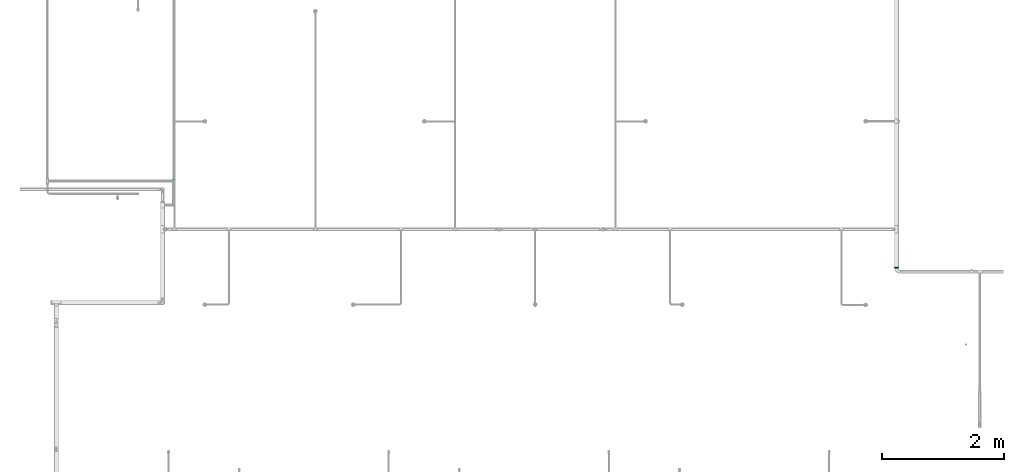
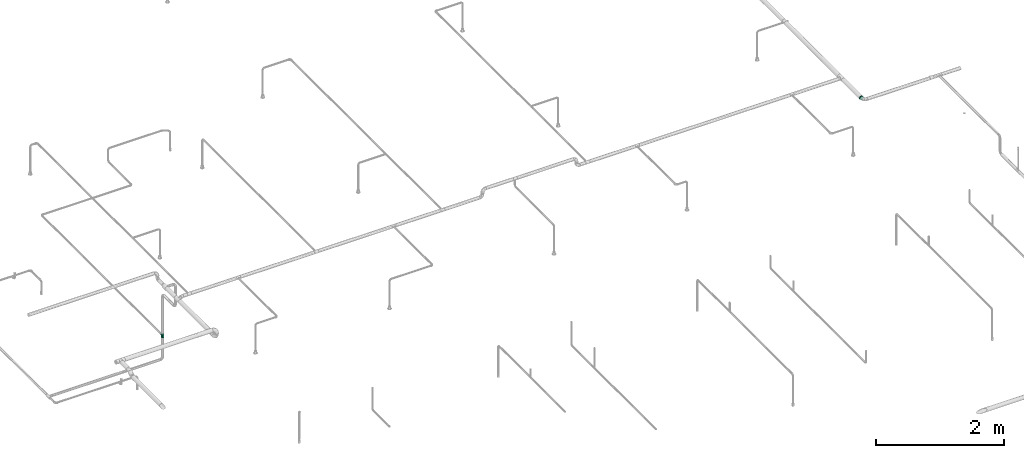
# One storey, part 87 of 95: 2 flow fittings.
"""IFC2X3 building model written with IfcOpenShell, lengths in millimetres."""

from ifc_helpers import new_model, entity, si_unit, converted_unit, derived_unit, direction, frame, origin_with_axes, place, context, subcontext, project, spatial, open_shell, surface_model, source, transform, mapped, type_object, element, save


model = new_model("IFC2X3")

# Units and contexts
model_context = context("Model", 3, precision=0.01, world=frame((0.0, 4.29681676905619e-09, 0.0)), true_north=direction((4.01073788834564e-13, 1.0)))
plan_context = context("Plan", 3, precision=0.01, world=frame((0.0, 4.29681676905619e-09, 0.0)), true_north=direction((4.01073788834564e-13, 1.0)))
body_context = subcontext(model_context, "Body", "Model", "MODEL_VIEW")
ifc_project = project(units=[converted_unit("PLANEANGLEUNIT", "DEGREE", entity("IfcPositiveLengthMeasure", 0.0174532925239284), si_unit("PLANEANGLEUNIT", "RADIAN"), dimensions=[0, 0, 0, 0, 0, 0, 0]), si_unit("AREAUNIT", "SQUARE_METRE"), si_unit("LENGTHUNIT", "METRE", prefix="MILLI"), si_unit("MASSUNIT", "GRAM", prefix="KILO"), si_unit("POWERUNIT", "WATT"), si_unit("PRESSUREUNIT", "PASCAL"), si_unit("FORCEUNIT", "NEWTON", prefix="KILO"), si_unit("ELECTRICVOLTAGEUNIT", "VOLT"), si_unit("ELECTRICCURRENTUNIT", "AMPERE"), si_unit("THERMODYNAMICTEMPERATUREUNIT", "DEGREE_CELSIUS"), si_unit("TIMEUNIT", "SECOND"), si_unit("VOLUMEUNIT", "CUBIC_METRE"), derived_unit("LINEARVELOCITYUNIT", [(si_unit("LENGTHUNIT", "METRE"), 1), (si_unit("TIMEUNIT", "SECOND"), -1)]), derived_unit("VOLUMETRICFLOWRATEUNIT", [(si_unit("VOLUMEUNIT", "CUBIC_METRE"), 1), (si_unit("TIMEUNIT", "SECOND"), -1)]), derived_unit("THERMALTRANSMITTANCEUNIT", [(si_unit("POWERUNIT", "WATT"), 1), (si_unit("THERMODYNAMICTEMPERATUREUNIT", "KELVIN"), -1), (si_unit("AREAUNIT", "SQUARE_METRE"), -1)]), derived_unit("SOUNDPRESSUREUNIT", [(si_unit("PRESSUREUNIT", "PASCAL"), 1)])], contexts=[model_context, plan_context])

# Site, building, storey
site_placement = place(None, frame((0.0, -4.29681676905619e-09, 0.0), z_axis=(0.0, 0.0, 1.0), x_axis=(1.0, 0.0, 0.0)))
site = spatial("IfcSite", under=ifc_project, at=site_placement, CompositionType="ELEMENT")
building_placement = place(site_placement, frame((0.0, 4.29681676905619e-09, 0.0), z_axis=(0.0, 0.0, 1.0), x_axis=(1.0, 0.0, 0.0)))
building = spatial("IfcBuilding", under=site, at=building_placement, Name="mc-building", CompositionType="ELEMENT")
storey_placement = place(building_placement, frame((0.0, 0.0, 210900.0), z_axis=(0.0, 0.0, 1.0), x_axis=(1.0, 0.0, 0.0)))
storey = spatial("IfcBuildingStorey", under=building, at=storey_placement, Name="Nivå F", CompositionType="ELEMENT", Elevation=210900.0)

# Flow fittings
pipe_fitting_type_1 = type_object("IfcPipeFittingType", Name="magi_pipe_fe_reducer_centric_short_NOR", PredefinedType="TRANSITION")
shared_shape_1 = source(origin_with_axes(), body_context, "Body", "SurfaceModel", [
    surface_model("IfcShellBasedSurfaceModel", [(17.8, 9.86101, -36.80177), (17.8, 19.05, -32.99557), (17.8, 26.94077, -26.94077), (17.8, 36.80177, -9.86101), (17.8, -26.94077, -26.94077), (17.8, 32.99557, -19.05), (17.8, -38.1, 0.0), (17.8, 0.0, -38.1), (17.8, -19.05, -32.99557), (17.8, -9.86101, -36.80177), (17.8, -32.99557, -19.05), (17.8, -36.80177, -9.86101), (17.8, 38.1, 0.0), (17.8, 36.80177, 9.86101), (17.8, 32.99557, 19.05), (17.8, 26.94077, 26.94077), (17.8, 0.0, 38.1), (17.8, 9.86101, 36.80177), (17.8, 19.05, 32.99557), (17.8, -9.86101, 36.80177), (17.8, -32.99557, 19.05), (17.8, -36.80177, 9.86101), (17.8, -26.94077, 26.94077), (17.8, -19.05, 32.99557), (15.8, 0.0, 38.1), (15.8, 9.86101, 36.80177), (15.8, 19.05, 32.99557), (15.8, 36.80177, 9.86101), (15.8, 26.94077, 26.94077), (15.8, 32.99557, 19.05), (15.8, -36.80177, -9.86101), (15.8, -26.94077, 26.94077), (15.8, -19.05, 32.99557), (15.8, -9.86101, 36.80177), (15.8, -36.80177, 9.86101), (15.8, -32.99557, 19.05), (15.8, -38.1, 0.0), (15.8, 36.80177, -9.86101), (15.8, 0.0, -38.1), (15.8, 38.1, 0.0), (15.8, 26.94077, -26.94077), (15.8, 32.99557, -19.05), (15.8, 19.05, -32.99557), (15.8, 9.86101, -36.80177), (15.8, -26.94077, -26.94077), (15.8, -32.99557, -19.05), (15.8, -19.05, -32.99557), (15.8, -9.86101, -36.80177), (-2.0, 0.0, 30.2), (-2.0, 7.81634, 29.17096), (-2.0, 15.1, 26.15397), (-2.0, 21.35462, 21.35462), (-2.0, 26.15397, 15.1), (-2.0, 29.17096, 7.81634), (-2.0, -29.17096, 7.81634), (-2.0, 30.2, 0.0), (-2.0, -7.81634, 29.17096), (-2.0, -21.35462, 21.35462), (-2.0, -15.1, 26.15397), (-2.0, -26.15397, 15.1), (-2.0, -30.2, 0.0), (-2.0, 29.17096, -7.81634), (-2.0, 26.15397, -15.1), (-2.0, 21.35462, -21.35462), (-2.0, 15.1, -26.15397), (-2.0, 7.81634, -29.17096), (-2.0, -15.1, -26.15397), (-2.0, -29.17096, -7.81634), (-2.0, -21.35462, -21.35462), (-2.0, -26.15397, -15.1), (-2.0, 0.0, -30.2), (-2.0, -7.81634, -29.17096), (0.0, 7.81634, -29.17096), (0.0, 15.1, -26.15397), (0.0, 21.35462, -21.35462), (0.0, 30.2, 0.0), (0.0, 26.15397, -15.1), (0.0, 29.17096, -7.81634), (0.0, -15.1, -26.15397), (0.0, -29.17096, 7.81634), (0.0, 0.0, -30.2), (0.0, -7.81634, -29.17096), (0.0, -21.35462, -21.35462), (0.0, -29.17096, -7.81634), (0.0, -26.15397, -15.1), (0.0, 29.17096, 7.81634), (0.0, 26.15397, 15.1), (0.0, 21.35462, 21.35462), (0.0, -21.35462, 21.35462), (0.0, 15.1, 26.15397), (0.0, 7.81634, 29.17096), (0.0, 0.0, 30.2), (0.0, -26.15397, 15.1), (0.0, -30.2, 0.0), (0.0, -7.81634, 29.17096), (0.0, -15.1, 26.15397), (0.0, 9.33231, 28.72191), (0.0, -9.33231, 28.72191), (0.0, -24.43231, -17.75111), (0.0, -24.43231, 17.75111), (0.0, 24.43231, 17.75111), (0.0, 24.43231, -17.75111), (0.0, 9.33231, -28.72191), (0.0, -9.33231, -28.72191), (15.8, -35.64327, -9.16863), (0.0, -27.31616, -8.87556), (0.0, 27.31616, -8.87556), (15.8, 35.64327, -9.16863), (0.0, -16.88231, -23.23651), (15.8, -26.02278, -26.02278), (0.0, 16.88231, -23.23651), (15.8, -9.525, -35.54778), (15.8, 9.525, -35.54778), (0.0, 0.0, -28.72191), (15.8, 26.02278, -26.02278), (15.8, 35.64327, 9.16863), (0.0, 27.31616, 8.87556), (0.0, -27.31616, 8.87556), (15.8, -35.64327, 9.16863), (0.0, 16.88231, 23.23651), (15.8, 26.02278, 26.02278), (0.0, -16.88231, 23.23651), (15.8, 9.525, 35.54778), (15.8, -9.525, 35.54778), (0.0, 0.0, 28.72191), (15.8, -26.02278, 26.02278)], [open_shell([[[0, 1, 2]], [[0, 2, 3]], [[0, 3, 4]], [[3, 2, 5]], [[4, 3, 6]], [[7, 8, 9]], [[7, 0, 8]], [[4, 8, 0]], [[4, 6, 10]], [[10, 6, 11]], [[3, 12, 13]], [[13, 14, 15]], [[13, 15, 16]], [[17, 16, 15]], [[17, 15, 18]], [[13, 16, 19]], [[6, 20, 21]], [[20, 6, 19]], [[22, 19, 23]], [[19, 22, 20]], [[6, 13, 19]], [[13, 6, 3]], [[24, 25, 26]], [[24, 26, 27]], [[28, 29, 27]], [[28, 27, 26]], [[30, 31, 24]], [[24, 32, 33]], [[24, 31, 32]], [[31, 34, 35]], [[36, 34, 30]], [[34, 31, 30]], [[24, 27, 30]], [[37, 38, 39]], [[40, 37, 41]], [[42, 43, 37]], [[42, 37, 40]], [[38, 37, 43]], [[30, 44, 45]], [[44, 30, 38]], [[46, 38, 47]], [[38, 46, 44]], [[30, 39, 38]], [[39, 30, 27]], [[30, 11, 36]], [[45, 10, 30]], [[8, 44, 46]], [[45, 44, 4]], [[9, 46, 47]], [[30, 10, 11]], [[11, 6, 36]], [[9, 8, 46]], [[4, 44, 8]], [[4, 10, 45]], [[7, 9, 47]], [[47, 38, 7]], [[43, 0, 38]], [[42, 1, 43]], [[5, 40, 41]], [[42, 40, 2]], [[3, 41, 37]], [[42, 2, 1]], [[1, 0, 43]], [[12, 3, 37]], [[5, 41, 3]], [[5, 2, 40]], [[39, 12, 37]], [[38, 0, 7]], [[27, 13, 39]], [[29, 14, 27]], [[18, 28, 26]], [[29, 28, 15]], [[17, 26, 25]], [[27, 14, 13]], [[13, 12, 39]], [[17, 18, 26]], [[15, 28, 18]], [[15, 14, 29]], [[16, 17, 25]], [[25, 24, 16]], [[33, 19, 24]], [[32, 23, 33]], [[20, 31, 35]], [[32, 31, 22]], [[21, 35, 34]], [[32, 22, 23]], [[23, 19, 33]], [[6, 21, 34]], [[20, 35, 21]], [[20, 22, 31]], [[36, 6, 34]], [[24, 19, 16]], [[48, 49, 50]], [[48, 50, 51]], [[51, 52, 53]], [[48, 51, 54]], [[55, 54, 51]], [[56, 57, 58]], [[56, 48, 57]], [[57, 54, 59]], [[48, 54, 57]], [[54, 55, 60]], [[55, 51, 53]], [[55, 61, 62]], [[55, 62, 63]], [[63, 64, 65]], [[63, 65, 55]], [[65, 66, 60]], [[67, 68, 69]], [[68, 67, 66]], [[66, 70, 71]], [[67, 60, 66]], [[65, 70, 66]], [[60, 55, 65]], [[72, 73, 74]], [[72, 74, 75]], [[76, 77, 75]], [[76, 75, 74]], [[78, 72, 79]], [[80, 78, 81]], [[80, 72, 78]], [[82, 83, 84]], [[83, 82, 78]], [[78, 79, 83]], [[79, 72, 75]], [[85, 86, 87]], [[75, 87, 88]], [[89, 90, 91]], [[88, 87, 89]], [[88, 89, 91]], [[79, 88, 92]], [[93, 83, 79]], [[88, 94, 95]], [[79, 75, 88]], [[94, 88, 91]], [[85, 87, 75]], [[67, 83, 60]], [[69, 84, 67]], [[78, 68, 66]], [[69, 68, 82]], [[81, 66, 71]], [[67, 84, 83]], [[83, 93, 60]], [[81, 78, 66]], [[82, 68, 78]], [[82, 84, 69]], [[80, 81, 71]], [[71, 70, 80]], [[65, 72, 70]], [[64, 73, 65]], [[76, 63, 62]], [[64, 63, 74]], [[77, 62, 61]], [[64, 74, 73]], [[73, 72, 65]], [[75, 77, 61]], [[76, 62, 77]], [[76, 74, 63]], [[55, 75, 61]], [[70, 72, 80]], [[53, 85, 55]], [[52, 86, 53]], [[89, 51, 50]], [[52, 51, 87]], [[90, 50, 49]], [[53, 86, 85]], [[85, 75, 55]], [[90, 89, 50]], [[87, 51, 89]], [[87, 86, 52]], [[91, 90, 49]], [[49, 48, 91]], [[56, 94, 48]], [[58, 95, 56]], [[92, 57, 59]], [[58, 57, 88]], [[79, 59, 54]], [[58, 88, 95]], [[95, 94, 56]], [[93, 79, 54]], [[92, 59, 79]], [[92, 88, 57]], [[60, 93, 54]], [[48, 94, 91]], [[36, 26, 24]], [[36, 24, 32]], [[26, 41, 29]], [[39, 29, 41]], [[32, 35, 36]], [[42, 36, 45]], [[42, 45, 46]], [[36, 42, 41]], [[42, 46, 38]], [[36, 41, 26]], [[96, 75, 97]], [[97, 98, 99]], [[93, 99, 98]], [[96, 100, 75]], [[75, 101, 102]], [[75, 103, 98]], [[103, 75, 102]], [[75, 98, 97]], [[45, 104, 105]], [[41, 106, 107]], [[108, 109, 98]], [[45, 105, 98]], [[104, 93, 105]], [[42, 102, 110]], [[111, 46, 103]], [[45, 98, 109]], [[102, 112, 113]], [[101, 114, 110]], [[93, 104, 36]], [[108, 103, 46]], [[75, 107, 106]], [[109, 108, 46]], [[102, 42, 112]], [[75, 39, 107]], [[106, 41, 101]], [[41, 114, 101]], [[42, 110, 114]], [[112, 38, 113]], [[103, 113, 111]], [[111, 113, 38]], [[29, 115, 116]], [[35, 117, 118]], [[119, 120, 100]], [[29, 116, 100]], [[115, 75, 116]], [[32, 97, 121]], [[122, 26, 96]], [[29, 100, 120]], [[97, 123, 124]], [[99, 125, 121]], [[75, 115, 39]], [[119, 96, 26]], [[93, 118, 117]], [[120, 119, 26]], [[97, 32, 123]], [[93, 36, 118]], [[117, 35, 99]], [[35, 125, 99]], [[32, 121, 125]], [[123, 24, 124]], [[96, 124, 122]], [[122, 124, 24]]])]),
])
flow_fitting_1_placement = place(storey_placement, frame((534602.7875, 450203.3624, 4310.0), z_axis=(0.0, 0.0, 1.0), x_axis=(0.0, 1.0, 0.0)))
element("IfcFlowFitting", 1, at=flow_fitting_1_placement, inside=storey, type_object=pipe_fitting_type_1, Name="magi_pipe_fe_reducer_centric_short_NOR", context=body_context, shape_type="MappedRepresentation", body=[
    mapped(shared_shape_1, transform((0.0, 0.0, 0.0), scale=1.0)),
])
pipe_fitting_type_2 = type_object("IfcPipeFittingType", Name="magi_pipe_fe_tee_centric_90_NOR", PredefinedType="JUNCTION")
shared_shape_2 = source(origin_with_axes(), body_context, "Body", "SurfaceModel", [
    surface_model("IfcShellBasedSurfaceModel", [(-33.8, 0.0, -24.2), (-33.8, -6.26342, -23.37541), (-33.8, 6.26342, -23.37541), (-33.8, 12.1, -20.95781), (-33.8, 17.11198, -17.11198), (-33.8, 20.95781, -12.1), (-33.8, -23.37541, -6.26342), (-33.8, 23.37541, -6.26342), (-33.8, -17.11198, -17.11198), (-33.8, -20.95781, -12.1), (-33.8, -12.1, -20.95781), (-33.8, -24.2, 0.0), (-33.8, -23.37541, 6.26342), (-33.8, 20.95781, 12.1), (-33.8, 23.37541, 6.26342), (-33.8, 24.2, 0.0), (-33.8, 12.1, 20.95781), (-33.8, 17.11198, 17.11198), (-33.8, -17.11198, 17.11198), (-33.8, 6.26342, 23.37541), (-33.8, -20.95781, 12.1), (-33.8, -12.1, 20.95781), (-33.8, -6.26342, 23.37541), (-33.8, 0.0, 24.2), (33.8, 6.26342, -23.37541), (33.8, -6.26342, -23.37541), (33.8, 0.0, -24.2), (33.8, 17.11198, -17.11198), (33.8, 12.1, -20.95781), (33.8, -23.37541, -6.26342), (33.8, 20.95781, -12.1), (33.8, 23.37541, -6.26342), (33.8, -17.11198, -17.11198), (33.8, -12.1, -20.95781), (33.8, -20.95781, -12.1), (33.8, -24.2, 0.0), (33.8, 24.2, 0.0), (33.8, 23.37541, 6.26342), (33.8, 20.95781, 12.1), (33.8, -23.37541, 6.26342), (33.8, -17.11198, 17.11198), (33.8, 12.1, 20.95781), (33.8, 17.11198, 17.11198), (33.8, 6.26342, 23.37541), (33.8, -20.95781, 12.1), (33.8, -12.1, 20.95781), (33.8, 0.0, 24.2), (33.8, -6.26342, 23.37541), (15.81824, -23.45734, 5.94922), (16.9, -24.2, 0.0), (12.87025, -21.57947, 10.95293), (33.8, -19.0349, 14.60599), (8.52813, -19.30697, 14.59044), (3.03527, -17.5853, 16.6252), (-3.04044, -17.58619, 16.62425), (-8.52961, -19.30762, 14.58958), (-33.8, -19.0349, 14.60599), (-16.9, -24.2, 0.0), (-15.81885, -23.45775, 5.9476), (-12.87368, -21.58151, 10.9489), (3.03527, -17.5853, -16.6252), (33.8, -19.0349, -14.60599), (8.52813, -19.30697, -14.59044), (-8.52961, -19.30762, -14.58958), (-33.8, -19.0349, -14.60599), (12.87025, -21.57947, -10.95293), (-3.04044, -17.58619, -16.62425), (15.81824, -23.45734, -5.94922), (-12.87368, -21.58151, -10.9489), (-15.81885, -23.45775, -5.9476), (4.37404, -36.3, -16.32415), (-16.9, -36.3, 0.0), (0.0, -36.3, -16.9), (14.63583, -36.3, -8.45), (8.45, -36.3, -14.63583), (16.32415, -36.3, -4.37404), (11.9501, -36.3, -11.9501), (-11.9501, -36.3, -11.9501), (-8.45, -36.3, -14.63583), (-4.37404, -36.3, -16.32415), (-14.63583, -36.3, -8.45), (-16.32415, -36.3, -4.37404), (16.9, -36.3, 0.0), (8.45, -36.3, 14.63583), (16.32415, -36.3, 4.37404), (14.63583, -36.3, 8.45), (-8.45, -36.3, 14.63583), (11.9501, -36.3, 11.9501), (4.37404, -36.3, 16.32415), (-16.32415, -36.3, 4.37404), (-11.9501, -36.3, 11.9501), (-14.63583, -36.3, 8.45), (0.0, -36.3, 16.9), (-4.37404, -36.3, 16.32415), (-16.35943, -23.82888, 2.9738), (16.35912, -23.82867, 2.97461), (-0.00259, -17.58575, 16.62472), (16.35912, -23.82867, -2.97461), (-0.00259, -17.58575, -16.62472), (-16.35943, -23.82888, -2.9738)], [open_shell([[[0, 1, 2]], [[3, 2, 4]], [[5, 2, 6]], [[4, 2, 5]], [[7, 5, 6]], [[8, 9, 10]], [[1, 10, 9]], [[1, 9, 2]], [[9, 6, 2]], [[6, 11, 7]], [[11, 12, 7]], [[13, 14, 15]], [[13, 15, 12]], [[16, 17, 18]], [[12, 17, 13]], [[19, 16, 18]], [[20, 18, 12]], [[18, 17, 12]], [[21, 22, 18]], [[23, 18, 22]], [[18, 23, 19]], [[7, 12, 15]], [[24, 25, 26]], [[27, 24, 28]], [[29, 24, 30]], [[30, 24, 27]], [[29, 30, 31]], [[25, 32, 33]], [[32, 25, 34]], [[24, 34, 25]], [[24, 29, 34]], [[31, 35, 29]], [[31, 36, 35]], [[36, 37, 38]], [[39, 36, 38]], [[40, 38, 41]], [[41, 38, 42]], [[40, 41, 43]], [[39, 40, 44]], [[39, 38, 40]], [[45, 46, 47]], [[46, 45, 40]], [[43, 46, 40]], [[36, 39, 35]], [[35, 39, 48]], [[48, 49, 35]], [[39, 50, 48]], [[51, 40, 52]], [[52, 50, 44]], [[53, 52, 40]], [[54, 53, 21]], [[44, 50, 39]], [[55, 18, 56]], [[57, 58, 11]], [[12, 11, 58]], [[58, 59, 12]], [[55, 54, 18]], [[55, 20, 59]], [[20, 55, 56]], [[59, 20, 12]], [[18, 54, 21]], [[52, 44, 51]], [[53, 40, 45]], [[23, 47, 46]], [[22, 45, 47]], [[19, 46, 43]], [[38, 37, 14]], [[17, 41, 42]], [[13, 42, 38]], [[43, 41, 16]], [[15, 37, 36]], [[21, 45, 22]], [[22, 47, 23]], [[19, 23, 46]], [[43, 16, 19]], [[16, 41, 17]], [[13, 17, 42]], [[14, 13, 38]], [[37, 15, 14]], [[45, 21, 53]], [[5, 31, 30]], [[7, 36, 31]], [[4, 30, 27]], [[26, 25, 1]], [[2, 28, 24]], [[0, 24, 26]], [[27, 28, 3]], [[10, 25, 33]], [[15, 36, 7]], [[7, 31, 5]], [[4, 5, 30]], [[27, 3, 4]], [[3, 28, 2]], [[0, 2, 24]], [[1, 0, 26]], [[25, 10, 1]], [[33, 60, 10]], [[61, 34, 62]], [[63, 9, 64]], [[62, 60, 32]], [[34, 65, 62]], [[66, 10, 60]], [[29, 35, 67]], [[67, 65, 29]], [[49, 67, 35]], [[29, 65, 34]], [[66, 63, 8]], [[62, 32, 61]], [[64, 8, 63]], [[63, 68, 9]], [[8, 10, 66]], [[68, 69, 6]], [[69, 11, 6]], [[11, 69, 57]], [[68, 6, 9]], [[60, 33, 32]], [[70, 71, 72]], [[73, 70, 74]], [[73, 75, 70]], [[73, 74, 76]], [[71, 70, 75]], [[72, 77, 78]], [[78, 79, 72]], [[80, 71, 81]], [[77, 72, 80]], [[71, 80, 72]], [[75, 82, 71]], [[83, 82, 84]], [[83, 84, 85]], [[86, 71, 83]], [[83, 85, 87]], [[86, 83, 88]], [[89, 90, 91]], [[90, 89, 86]], [[86, 92, 93]], [[89, 71, 86]], [[88, 92, 86]], [[83, 71, 82]], [[89, 94, 71]], [[59, 91, 90]], [[89, 91, 58]], [[90, 86, 55]], [[89, 58, 94]], [[94, 57, 71]], [[58, 91, 59]], [[95, 48, 84]], [[55, 93, 54]], [[55, 59, 90]], [[92, 53, 96]], [[55, 86, 93]], [[53, 92, 88]], [[83, 52, 88]], [[87, 85, 50]], [[87, 52, 83]], [[48, 85, 84]], [[87, 50, 52]], [[52, 53, 88]], [[82, 95, 84]], [[48, 50, 85]], [[95, 82, 49]], [[92, 54, 93]], [[96, 54, 92]], [[75, 97, 82]], [[65, 73, 76]], [[75, 73, 67]], [[76, 74, 62]], [[97, 49, 82]], [[67, 73, 65]], [[62, 70, 60]], [[62, 65, 76]], [[72, 66, 98]], [[62, 74, 70]], [[99, 71, 57]], [[99, 69, 81]], [[75, 67, 97]], [[79, 66, 72]], [[69, 80, 81]], [[77, 80, 68]], [[72, 60, 70]], [[79, 63, 66]], [[63, 79, 78]], [[78, 77, 63]], [[63, 77, 68]], [[68, 80, 69]], [[71, 99, 81]], [[98, 60, 72]]])]),
])
flow_fitting_2_placement = place(storey_placement, frame((522780.97009, 451628.04949, 3046.86988000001), z_axis=(1.0, 0.0, 0.0), x_axis=(0.0, 0.0, 1.0)))
element("IfcFlowFitting", 2, at=flow_fitting_2_placement, inside=storey, type_object=pipe_fitting_type_2, Name="magi_pipe_fe_tee_centric_90_NOR", context=body_context, shape_type="MappedRepresentation", body=[
    mapped(shared_shape_2, transform((0.0, 0.0, 0.0), scale=1.0)),
])

save(model, "model.ifc")
